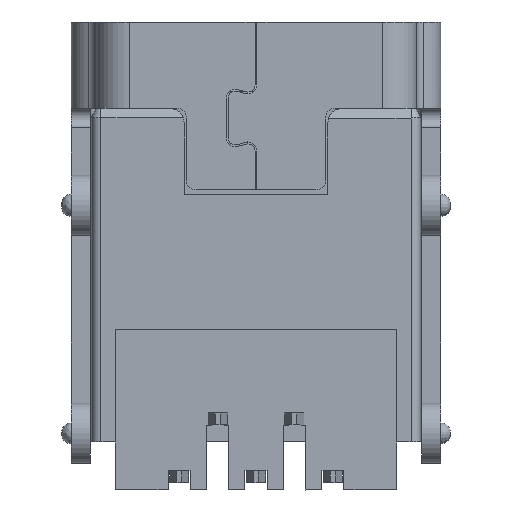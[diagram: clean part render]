
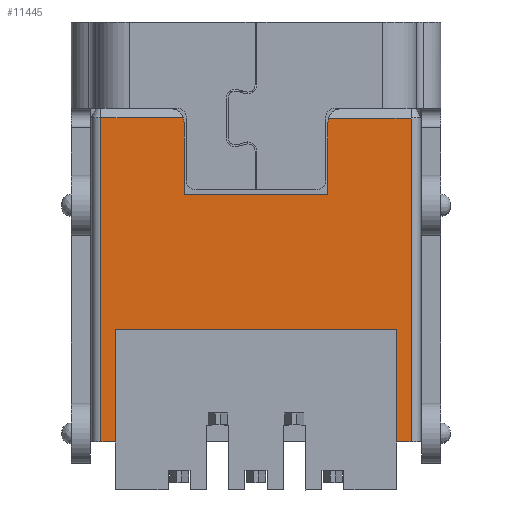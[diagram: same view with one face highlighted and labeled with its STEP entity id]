
A CAD part, front view. The second image highlights one B-rep face of the part: STEP entity #11445.
In plain terms, the highlighted planar face has unit normal (0, -1, 0).
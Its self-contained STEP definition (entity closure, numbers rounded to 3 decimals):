
#2043=DIRECTION('',(0.,0.,-1.));
#2044=VECTOR('',#2043,6.75);
#2045=CARTESIAN_POINT('',(3.23,0.,
6.4));
#2046=LINE('',#2045,#2044);
#2051=DIRECTION('',(1.,0.,0.));
#2052=VECTOR('',#2051,5.86);
#2053=CARTESIAN_POINT('',(-2.93,0.,2.));
#2054=LINE('',#2053,#2052);
#2055=DIRECTION('',(1.,0.,0.));
#2056=VECTOR('',#2055,0.3);
#2057=CARTESIAN_POINT('',(-3.23,0.,-0.35));
#2058=LINE('',#2057,#2056);
#2059=DIRECTION('',(-1.,0.,0.));
#2060=VECTOR('',#2059,1.713);
#2061=CARTESIAN_POINT('',(-1.517,0.,
6.4));
#2062=LINE('',#2061,#2060);
#2063=CARTESIAN_POINT('',(-1.8,0.,6.3));
#2064=DIRECTION('',(0.,-1.,0.));
#2065=DIRECTION('',(1.,0.,0.));
#2066=AXIS2_PLACEMENT_3D('',#2063,#2064,#2065);
#2068=DIRECTION('',(0.,0.,1.));
#2069=VECTOR('',#2068,1.5);
#2070=CARTESIAN_POINT('',(-1.5,0.,4.8));
#2071=LINE('',#2070,#2069);
#2072=DIRECTION('',(-1.,0.,0.));
#2073=VECTOR('',#2072,3.);
#2074=CARTESIAN_POINT('',(1.5,0.,4.8));
#2075=LINE('',#2074,#2073);
#2076=CARTESIAN_POINT('',(1.8,0.,6.3));
#2077=DIRECTION('',(0.,-1.,0.));
#2078=DIRECTION('',(-0.943,0.,0.333));
#2079=AXIS2_PLACEMENT_3D('',#2076,#2077,#2078);
#2081=DIRECTION('',(-1.,0.,0.));
#2082=VECTOR('',#2081,1.713);
#2083=CARTESIAN_POINT('',(3.23,0.,
6.4));
#2084=LINE('',#2083,#2082);
#2085=DIRECTION('',(1.,0.,0.));
#2086=VECTOR('',#2085,0.3);
#2087=CARTESIAN_POINT('',(2.93,0.,-0.35));
#2088=LINE('',#2087,#2086);
#2109=DIRECTION('',(0.,0.,-1.));
#2110=VECTOR('',#2109,2.35);
#2111=CARTESIAN_POINT('',(-2.93,0.,2.));
#2112=LINE('',#2111,#2110);
#2137=DIRECTION('',(0.,0.,1.));
#2138=VECTOR('',#2137,2.35);
#2139=CARTESIAN_POINT('',(2.93,0.,-0.35));
#2140=LINE('',#2139,#2138);
#2145=DIRECTION('',(0.,0.,1.));
#2146=VECTOR('',#2145,6.75);
#2147=CARTESIAN_POINT('',(-3.23,0.,-0.35));
#2148=LINE('',#2147,#2146);
#2400=DIRECTION('',(0.,0.,1.));
#2401=VECTOR('',#2400,1.5);
#2402=CARTESIAN_POINT('',(1.5,0.,4.8));
#2403=LINE('',#2402,#2401);
#6689=CARTESIAN_POINT('',(2.93,0.,-0.35));
#6690=VERTEX_POINT('',#6689);
#6691=CARTESIAN_POINT('',(2.93,0.,2.));
#6692=VERTEX_POINT('',#6691);
#6693=CARTESIAN_POINT('',(-2.93,0.,2.));
#6694=VERTEX_POINT('',#6693);
#6695=CARTESIAN_POINT('',(-2.93,0.,-0.35));
#6696=VERTEX_POINT('',#6695);
#6783=CARTESIAN_POINT('',(3.23,0.,-0.35));
#6784=VERTEX_POINT('',#6783);
#6789=CARTESIAN_POINT('',(-3.23,0.,-0.35));
#6790=VERTEX_POINT('',#6789);
#6807=CARTESIAN_POINT('',(3.23,0.,
6.4));
#6808=VERTEX_POINT('',#6807);
#6809=CARTESIAN_POINT('',(1.517,0.,
6.4));
#6810=VERTEX_POINT('',#6809);
#6811=CARTESIAN_POINT('',(1.5,0.,6.3));
#6812=VERTEX_POINT('',#6811);
#6813=CARTESIAN_POINT('',(1.5,0.,4.8));
#6814=VERTEX_POINT('',#6813);
#6815=CARTESIAN_POINT('',(-1.5,0.,4.8));
#6816=VERTEX_POINT('',#6815);
#6817=CARTESIAN_POINT('',(-1.5,0.,6.3));
#6818=VERTEX_POINT('',#6817);
#6819=CARTESIAN_POINT('',(-1.517,0.,6.4));
#6820=VERTEX_POINT('',#6819);
#6821=CARTESIAN_POINT('',(-3.23,0.,6.4));
#6822=VERTEX_POINT('',#6821);
#11413=CARTESIAN_POINT('',(-3.23,0.,0.));
#11414=DIRECTION('',(0.,-1.,0.));
#11415=DIRECTION('',(1.,0.,0.));
#11416=AXIS2_PLACEMENT_3D('',#11413,#11414,#11415);
#11417=PLANE('',#11416);
#11419=ORIENTED_EDGE('',*,*,#11418,.F.);
#11421=ORIENTED_EDGE('',*,*,#11420,.T.);
#11422=ORIENTED_EDGE('',*,*,#11062,.F.);
#11424=ORIENTED_EDGE('',*,*,#11423,.T.);
#11426=ORIENTED_EDGE('',*,*,#11425,.F.);
#11428=ORIENTED_EDGE('',*,*,#11427,.F.);
#11430=ORIENTED_EDGE('',*,*,#11429,.F.);
#11432=ORIENTED_EDGE('',*,*,#11431,.F.);
#11434=ORIENTED_EDGE('',*,*,#11433,.T.);
#11436=ORIENTED_EDGE('',*,*,#11435,.F.);
#11438=ORIENTED_EDGE('',*,*,#11437,.F.);
#11439=ORIENTED_EDGE('',*,*,#11405,.T.);
#11440=ORIENTED_EDGE('',*,*,#11077,.F.);
#11442=ORIENTED_EDGE('',*,*,#11441,.T.);
#11443=EDGE_LOOP('',(#11419,#11421,#11422,#11424,#11426,#11428,#11430,#11432,
#11434,#11436,#11438,#11439,#11440,#11442));
#11444=FACE_OUTER_BOUND('',#11443,.F.);
#2067=CIRCLE('',#2066,0.3);
#2080=CIRCLE('',#2079,0.3);
#11062=EDGE_CURVE('',#6790,#6696,#2058,.T.);
#11077=EDGE_CURVE('',#6690,#6784,#2088,.T.);
#11405=EDGE_CURVE('',#6808,#6784,#2046,.T.);
#11418=EDGE_CURVE('',#6694,#6692,#2054,.T.);
#11420=EDGE_CURVE('',#6694,#6696,#2112,.T.);
#11423=EDGE_CURVE('',#6790,#6822,#2148,.T.);
#11425=EDGE_CURVE('',#6820,#6822,#2062,.T.);
#11427=EDGE_CURVE('',#6818,#6820,#2067,.T.);
#11429=EDGE_CURVE('',#6816,#6818,#2071,.T.);
#11431=EDGE_CURVE('',#6814,#6816,#2075,.T.);
#11433=EDGE_CURVE('',#6814,#6812,#2403,.T.);
#11435=EDGE_CURVE('',#6810,#6812,#2080,.T.);
#11437=EDGE_CURVE('',#6808,#6810,#2084,.T.);
#11441=EDGE_CURVE('',#6690,#6692,#2140,.T.);
#11445=ADVANCED_FACE('',(#11444),#11417,.T.);
